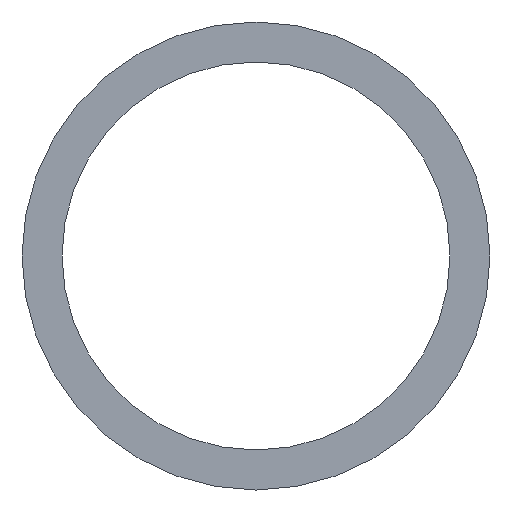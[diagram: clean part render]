
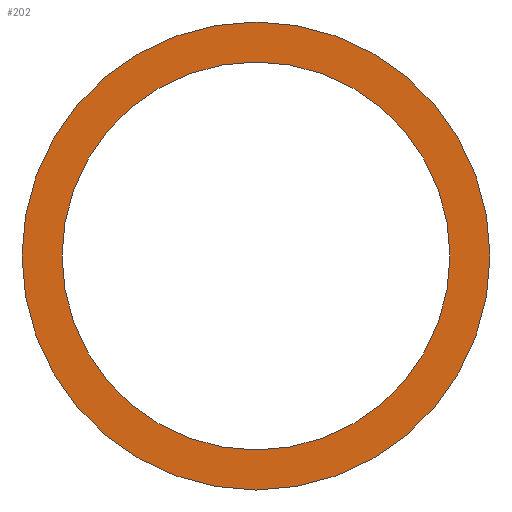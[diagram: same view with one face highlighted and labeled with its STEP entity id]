
A CAD part, front view. The second image highlights one B-rep face of the part: STEP entity #202.
In plain terms, the highlighted planar face has unit normal (0, -1, 0).
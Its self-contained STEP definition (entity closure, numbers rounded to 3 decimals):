
#2 = DIRECTION ( 'NONE',  ( 0., 1., 0. ) ) ;
#4 = CIRCLE ( 'NONE', #151, 11.15 ) ;
#10 = CARTESIAN_POINT ( 'NONE',  ( -105.45, 2087., 5775.85 ) ) ;
#13 = AXIS2_PLACEMENT_3D ( 'NONE', #166, #18, #177 ) ;
#15 = DIRECTION ( 'NONE',  ( 0., 0., 1. ) ) ;
#17 = DIRECTION ( 'NONE',  ( -1., 0., 0. ) ) ;
#18 = DIRECTION ( 'NONE',  ( 0., 1., 0. ) ) ;
#27 = ORIENTED_EDGE ( 'NONE', *, *, #192, .F. ) ;
#28 = CIRCLE ( 'NONE', #13, 13.45 ) ;
#32 = FACE_BOUND ( 'NONE', #191, .T. ) ;
#33 = CARTESIAN_POINT ( 'NONE',  ( -92., 2087., 5775.85 ) ) ;
#37 = DIRECTION ( 'NONE',  ( 0., 1., 0. ) ) ;
#39 = CARTESIAN_POINT ( 'NONE',  ( -78.55, 2087., 5775.85 ) ) ;
#42 = FACE_OUTER_BOUND ( 'NONE', #170, .T. ) ;
#43 = AXIS2_PLACEMENT_3D ( 'NONE', #146, #212, #17 ) ;
#49 = VERTEX_POINT ( 'NONE', #55 ) ;
#54 = VERTEX_POINT ( 'NONE', #10 ) ;
#55 = CARTESIAN_POINT ( 'NONE',  ( -80.85, 2087., 5775.85 ) ) ;
#66 = ORIENTED_EDGE ( 'NONE', *, *, #141, .F. ) ;
#74 = CARTESIAN_POINT ( 'NONE',  ( -103.15, 2087., 5775.85 ) ) ;
#78 = CIRCLE ( 'NONE', #164, 13.45 ) ;
#82 = DIRECTION ( 'NONE',  ( -1., 0., 0. ) ) ;
#89 = CARTESIAN_POINT ( 'NONE',  ( -82., 2087., 6275.85 ) ) ;
#92 = PLANE ( 'NONE',  #197 ) ;
#97 = EDGE_CURVE ( 'NONE', #49, #185, #4, .T. ) ;
#122 = VERTEX_POINT ( 'NONE', #39 ) ;
#141 = EDGE_CURVE ( 'NONE', #122, #54, #78, .T. ) ;
#146 = CARTESIAN_POINT ( 'NONE',  ( -92., 2087., 5775.85 ) ) ;
#151 = AXIS2_PLACEMENT_3D ( 'NONE', #210, #37, #82 ) ;
#161 = CIRCLE ( 'NONE', #43, 11.15 ) ;
#164 = AXIS2_PLACEMENT_3D ( 'NONE', #33, #2, #180 ) ;
#165 = DIRECTION ( 'NONE',  ( 0., 1., 0. ) ) ;
#166 = CARTESIAN_POINT ( 'NONE',  ( -92., 2087., 5775.85 ) ) ;
#170 = EDGE_LOOP ( 'NONE', ( #27, #66 ) ) ;
#171 = ORIENTED_EDGE ( 'NONE', *, *, #97, .T. ) ;
#174 = ORIENTED_EDGE ( 'NONE', *, *, #208, .T. ) ;
#177 = DIRECTION ( 'NONE',  ( -1., 0., 0. ) ) ;
#180 = DIRECTION ( 'NONE',  ( -1., 0., 0. ) ) ;
#185 = VERTEX_POINT ( 'NONE', #74 ) ;
#191 = EDGE_LOOP ( 'NONE', ( #174, #171 ) ) ;
#192 = EDGE_CURVE ( 'NONE', #54, #122, #28, .T. ) ;
#197 = AXIS2_PLACEMENT_3D ( 'NONE', #89, #165, #15 ) ;
#202 = ADVANCED_FACE ( 'NONE', ( #32, #42 ), #92, .F. ) ;
#208 = EDGE_CURVE ( 'NONE', #185, #49, #161, .T. ) ;
#210 = CARTESIAN_POINT ( 'NONE',  ( -92., 2087., 5775.85 ) ) ;
#212 = DIRECTION ( 'NONE',  ( 0., 1., 0. ) ) ;
